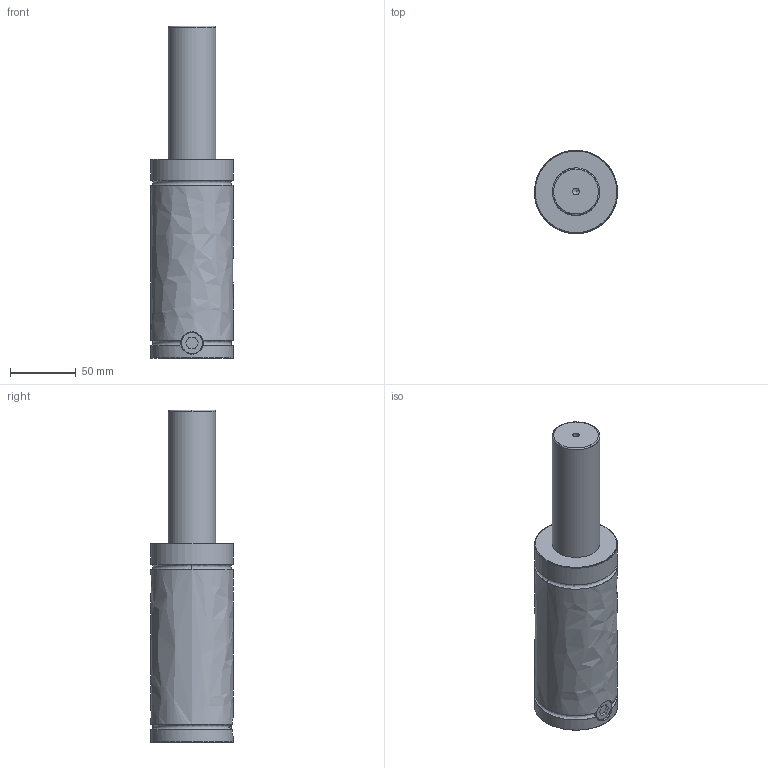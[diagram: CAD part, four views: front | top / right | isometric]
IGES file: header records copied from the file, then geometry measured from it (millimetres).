
Start section: VISI Layer Mapping Iges    VISI  0      LAYER_EMPTY  1      wwww  7      W_PD700  8      S_PD700  10     W_PD1000  11     S_PD1000  13     W_PD2000  14     S_PD2000  16     W_PD3000  17     S_PD3000  19     W_PD4000  20     S_PD4000  22     W_PD7000  23     S_PD7000  28     W_350  29     MS-350  30     MC-350  31     MP-350  32     MB-350  33     MH-350  34     MK-350  35     MPL-350  39     W_500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
Global section: file name: E:\だ錶臢\だ錶臢3D\SYLINDER\PT Series\PT1500\PT1500\PT1500-100.igs; native system: VISI 16.0; preprocessor: 2.0; author: 11; organization: 0; date: 500.; units: mil
Bounding box: 63 x 63 x 252 mm (x, y, z)
Surface area: 50296.2 mm2 (no closed solid volume)
Topology: 0 solids, 0 shells, 33 faces, 476 edges, 450 vertices
Faces by surface type: bspline 33
